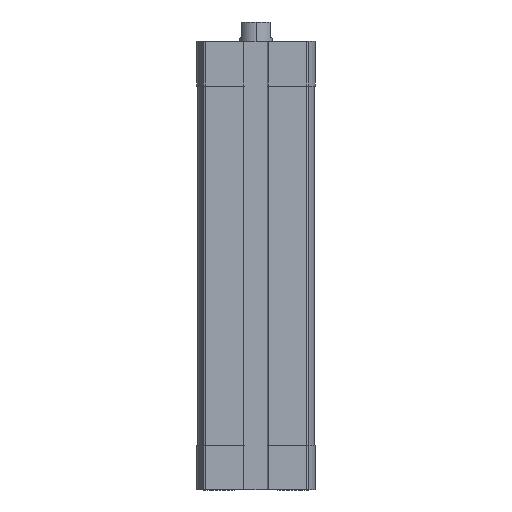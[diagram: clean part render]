
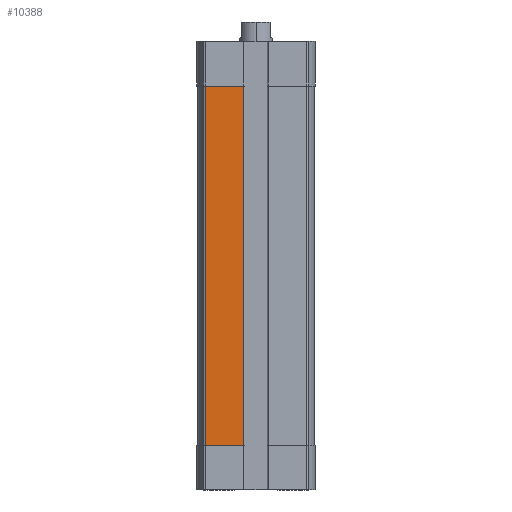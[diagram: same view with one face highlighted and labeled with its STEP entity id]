
A CAD part, left-side view. The second image highlights one B-rep face of the part: STEP entity #10388.
In plain terms, the highlighted planar face has unit normal (-1, 0, 0).
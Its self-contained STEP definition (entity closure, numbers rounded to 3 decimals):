
#121 = FACE_OUTER_BOUND ( 'NONE', #8099, .T. ) ;
#533 = EDGE_CURVE ( 'NONE', #5586, #10121, #5973, .T. ) ;
#570 = DIRECTION ( 'NONE',  ( -1., 0., 0. ) ) ;
#726 = DIRECTION ( 'NONE',  ( 0., 0., 1. ) ) ;
#738 = AXIS2_PLACEMENT_3D ( 'NONE', #7639, #570, #6790 ) ;
#1044 = CARTESIAN_POINT ( 'NONE',  ( -14.25, 12.347, -99. ) ) ;
#1235 = VECTOR ( 'NONE', #4784, 1000. ) ;
#1252 = CARTESIAN_POINT ( 'NONE',  ( -14.25, 12.347, -99. ) ) ;
#1645 = VECTOR ( 'NONE', #5253, 1000. ) ;
#2166 = DIRECTION ( 'NONE',  ( 0., 0., -1. ) ) ;
#2604 = CARTESIAN_POINT ( 'NONE',  ( -14.25, 0., -11. ) ) ;
#2873 = CARTESIAN_POINT ( 'NONE',  ( -14.25, 12.347, -11. ) ) ;
#2882 = VECTOR ( 'NONE', #726, 1000. ) ;
#2956 = ORIENTED_EDGE ( 'NONE', *, *, #533, .T. ) ;
#3800 = CARTESIAN_POINT ( 'NONE',  ( -14.25, 3.1, -99. ) ) ;
#3884 = EDGE_CURVE ( 'NONE', #8734, #7300, #4294, .T. ) ;
#4294 = LINE ( 'NONE', #2604, #1645 ) ;
#4784 = DIRECTION ( 'NONE',  ( 0., -1., 0. ) ) ;
#5223 = ORIENTED_EDGE ( 'NONE', *, *, #11132, .T. ) ;
#5249 = LINE ( 'NONE', #6905, #2882 ) ;
#5253 = DIRECTION ( 'NONE',  ( 0., 1., 0. ) ) ;
#5586 = VERTEX_POINT ( 'NONE', #1044 ) ;
#5818 = ORIENTED_EDGE ( 'NONE', *, *, #9473, .T. ) ;
#5863 = CARTESIAN_POINT ( 'NONE',  ( -14.25, 3.1, -11. ) ) ;
#5875 = CARTESIAN_POINT ( 'NONE',  ( -14.25, 12.347, -99. ) ) ;
#5884 = PLANE ( 'NONE',  #738 ) ;
#5973 = LINE ( 'NONE', #5875, #1235 ) ;
#6790 = DIRECTION ( 'NONE',  ( 0., 0., 1. ) ) ;
#6905 = CARTESIAN_POINT ( 'NONE',  ( -14.25, 3.1, -99. ) ) ;
#7300 = VERTEX_POINT ( 'NONE', #2873 ) ;
#7639 = CARTESIAN_POINT ( 'NONE',  ( -14.25, 12.347, -99. ) ) ;
#8099 = EDGE_LOOP ( 'NONE', ( #2956, #5818, #11009, #5223 ) ) ;
#8734 = VERTEX_POINT ( 'NONE', #5863 ) ;
#8851 = LINE ( 'NONE', #1252, #10941 ) ;
#9473 = EDGE_CURVE ( 'NONE', #10121, #8734, #5249, .T. ) ;
#10121 = VERTEX_POINT ( 'NONE', #3800 ) ;
#10388 = ADVANCED_FACE ( 'NONE', ( #121 ), #5884, .T. ) ;
#10941 = VECTOR ( 'NONE', #2166, 1000. ) ;
#11009 = ORIENTED_EDGE ( 'NONE', *, *, #3884, .T. ) ;
#11132 = EDGE_CURVE ( 'NONE', #7300, #5586, #8851, .T. ) ;
